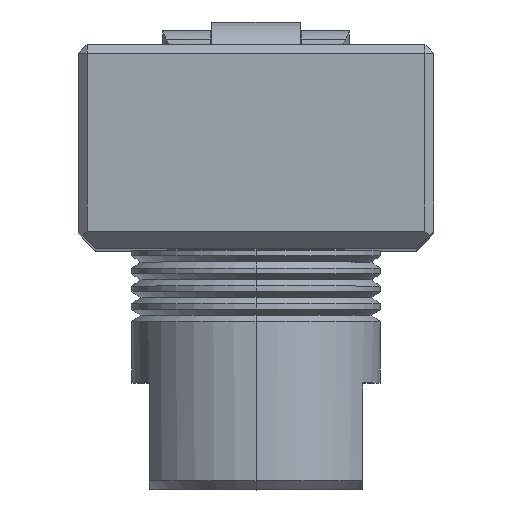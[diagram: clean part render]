
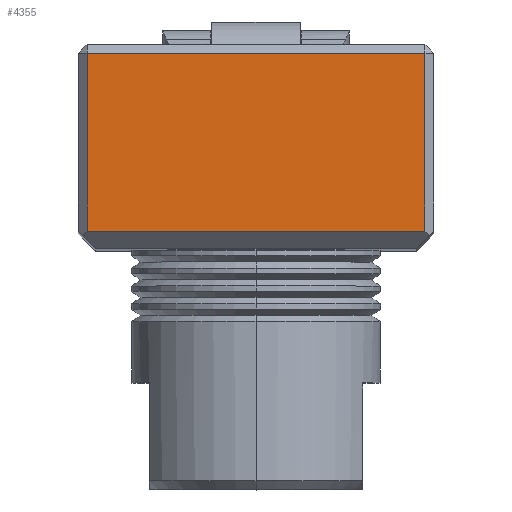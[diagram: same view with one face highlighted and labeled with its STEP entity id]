
A CAD part, top view. The second image highlights one B-rep face of the part: STEP entity #4355.
In plain terms, the highlighted planar face has unit normal (0, 0, 1).
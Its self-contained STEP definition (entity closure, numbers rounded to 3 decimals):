
#922 = DIRECTION ( 'NONE',  ( -1., 0., 0. ) ) ;
#923 = VECTOR ( 'NONE', #922, 1000. ) ;
#924 = CARTESIAN_POINT ( 'NONE',  ( -10., 11., 40. ) ) ;
#929 = LINE ( 'NONE', #924, #923 ) ;
#938 = CARTESIAN_POINT ( 'NONE',  ( -9.5, 1., 40. ) ) ;
#962 = CARTESIAN_POINT ( 'NONE',  ( -9.5, 11., 40. ) ) ;
#963 = CARTESIAN_POINT ( 'NONE',  ( 9.5, 1., 40. ) ) ;
#964 = DIRECTION ( 'NONE',  ( 1., 0., 0. ) ) ;
#965 = VECTOR ( 'NONE', #964, 1000. ) ;
#966 = CARTESIAN_POINT ( 'NONE',  ( 9.5, 1., 40. ) ) ;
#967 = LINE ( 'NONE', #966, #965 ) ;
#968 = CARTESIAN_POINT ( 'NONE',  ( 9.5, 11., 40. ) ) ;
#969 = DIRECTION ( 'NONE',  ( 0., 1., 0. ) ) ;
#970 = VECTOR ( 'NONE', #969, 1000. ) ;
#971 = CARTESIAN_POINT ( 'NONE',  ( 9.5, 11.5, 40. ) ) ;
#972 = LINE ( 'NONE', #971, #970 ) ;
#983 = DIRECTION ( 'NONE',  ( -1., 0., 0. ) ) ;
#984 = DIRECTION ( 'NONE',  ( 0., 0., -1. ) ) ;
#985 = CARTESIAN_POINT ( 'NONE',  ( 10., 11.5, 40. ) ) ;
#986 = AXIS2_PLACEMENT_3D ( 'NONE', #985, #984, #983 ) ;
#987 = PLANE ( 'NONE',  #986 ) ;
#988 = FACE_OUTER_BOUND ( 'NONE', #4380, .T. ) ;
#1026 = DIRECTION ( 'NONE',  ( 0., -1., 0. ) ) ;
#1027 = VECTOR ( 'NONE', #1026, 1000. ) ;
#1028 = CARTESIAN_POINT ( 'NONE',  ( -9.5, 0., 40. ) ) ;
#1029 = LINE ( 'NONE', #1028, #1027 ) ;
#4304 = VERTEX_POINT ( 'NONE', #938 ) ;
#4314 = ORIENTED_EDGE ( 'NONE', *, *, #4315, .T. ) ;
#4315 = EDGE_CURVE ( 'NONE', #4327, #4332, #929, .T. ) ;
#4325 = ORIENTED_EDGE ( 'NONE', *, *, #4326, .T. ) ;
#4326 = EDGE_CURVE ( 'NONE', #4330, #4327, #972, .T. ) ;
#4327 = VERTEX_POINT ( 'NONE', #968 ) ;
#4328 = ORIENTED_EDGE ( 'NONE', *, *, #4329, .T. ) ;
#4329 = EDGE_CURVE ( 'NONE', #4304, #4330, #967, .T. ) ;
#4330 = VERTEX_POINT ( 'NONE', #963 ) ;
#4331 = ORIENTED_EDGE ( 'NONE', *, *, #4367, .T. ) ;
#4332 = VERTEX_POINT ( 'NONE', #962 ) ;
#4355 = ADVANCED_FACE ( 'NONE', ( #988 ), #987, .F. ) ;
#4367 = EDGE_CURVE ( 'NONE', #4332, #4304, #1029, .T. ) ;
#4380 = EDGE_LOOP ( 'NONE', ( #4331, #4328, #4325, #4314 ) ) ;
